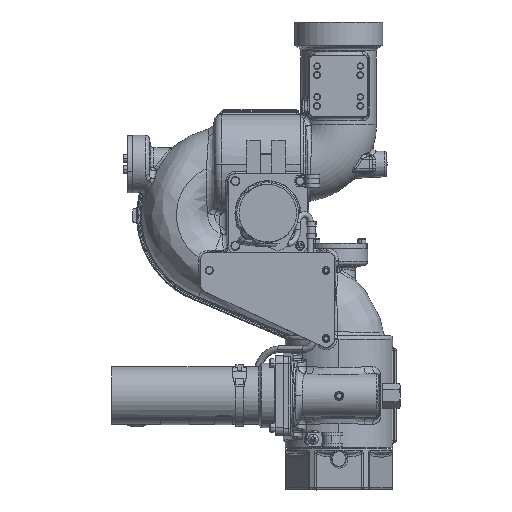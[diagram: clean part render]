
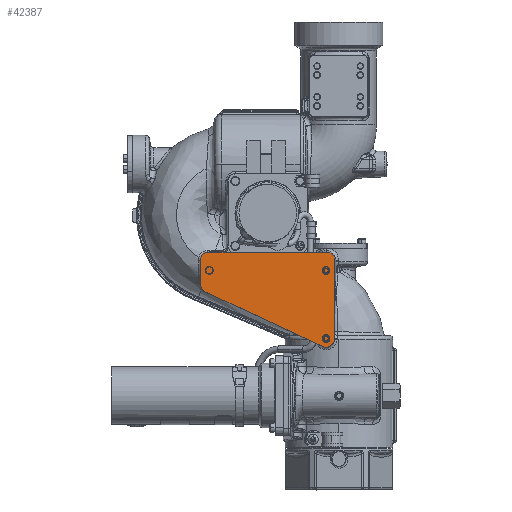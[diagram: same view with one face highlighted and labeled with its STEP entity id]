
A CAD part, top view. The second image highlights one B-rep face of the part: STEP entity #42387.
In plain terms, the highlighted planar face has unit normal (0, 0, 1).
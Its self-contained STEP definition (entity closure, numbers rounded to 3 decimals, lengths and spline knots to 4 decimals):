
#1124 = ORIENTED_EDGE ( 'NONE', *, *, #85695, .T. ) ;
#1375 = VERTEX_POINT ( 'NONE', #98646 ) ;
#4652 = CARTESIAN_POINT ( 'NONE',  ( -0.1485, 3.308, 3.407 ) ) ;
#4891 = AXIS2_PLACEMENT_3D ( 'NONE', #144841, #87002, #89511 ) ;
#11999 = EDGE_CURVE ( 'Defeatured_8_6+Defeatured_8_3+Defeatured_8_7+Defeatured_8_8', #1375, #87515, #99019, .T. ) ;
#12520 = AXIS2_PLACEMENT_3D ( 'NONE', #115665, #48088, #127027 ) ;
#12606 = VECTOR ( 'NONE', #93322, 39.3701 ) ;
#18465 = DIRECTION ( 'NONE',  ( 1., 0., 0. ) ) ;
#20664 = VECTOR ( 'NONE', #76787, 39.3701 ) ;
#23745 = AXIS2_PLACEMENT_3D ( 'NONE', #29777, #97387, #18465 ) ;
#24549 = ORIENTED_EDGE ( 'NONE', *, *, #11999, .F. ) ;
#25257 = DIRECTION ( 'NONE',  ( 0., 1., 0. ) ) ;
#29777 = CARTESIAN_POINT ( 'NONE',  ( -0.3985, 3.058, 3.407 ) ) ;
#30606 = CARTESIAN_POINT ( 'NONE',  ( -4.5545, 3.308, 3.407 ) ) ;
#31327 = CARTESIAN_POINT ( 'NONE',  ( -4.8045, 3.308, 3.407 ) ) ;
#33563 = LINE ( 'NONE', #4652, #37103 ) ;
#35793 = ORIENTED_EDGE ( 'NONE', *, *, #36235, .T. ) ;
#36235 = EDGE_CURVE ( 'Defeatured_8_3+Defeatured_8_1+Defeatured_8_7+Defeatured_8_5', #140861, #60408, #33563, .T. ) ;
#37103 = VECTOR ( 'NONE', #25257, 39.3701 ) ;
#42289 = LINE ( 'NONE', #144347, #98772 ) ;
#42387 = ADVANCED_FACE ( 'Defeatured_8_3', ( #83553 ), #97475, .T. ) ;
#42772 = ORIENTED_EDGE ( 'NONE', *, *, #119004, .T. ) ;
#43946 = CARTESIAN_POINT ( 'NONE',  ( -0.1485, 0.306, 3.407 ) ) ;
#46957 = AXIS2_PLACEMENT_3D ( 'NONE', #140026, #57533, #143243 ) ;
#48088 = DIRECTION ( 'NONE',  ( 0., 0., -1. ) ) ;
#48875 = EDGE_CURVE ( 'Defeatured_8_3+Defeatured_8_8+Defeatured_8_0+Defeatured_8_6', #98380, #87515, #77392, .T. ) ;
#51798 = EDGE_CURVE ( 'Defeatured_8_3+Defeatured_8_5+Defeatured_8_1+Defeatured_8_2', #60408, #94899, #57400, .T. ) ;
#54174 = CARTESIAN_POINT ( 'NONE',  ( -4.5545, 3.058, 3.407 ) ) ;
#54215 = LINE ( 'NONE', #31327, #20664 ) ;
#54827 = CARTESIAN_POINT ( 'NONE',  ( -4.6602, 1.9389, 3.407 ) ) ;
#57400 = CIRCLE ( 'NONE', #23745, 0.25 ) ;
#57533 = DIRECTION ( 'NONE',  ( 0., 0., 1. ) ) ;
#59304 = CARTESIAN_POINT ( 'NONE',  ( -0.1485, 3.058, 3.407 ) ) ;
#60408 = VERTEX_POINT ( 'NONE', #59304 ) ;
#65535 = DIRECTION ( 'NONE',  ( 1., 0., 0. ) ) ;
#76787 = DIRECTION ( 'NONE',  ( 0., -1., 0. ) ) ;
#77392 = CIRCLE ( 'NONE', #46957, 0.25 ) ;
#77455 = ORIENTED_EDGE ( 'NONE', *, *, #128102, .T. ) ;
#81689 = CIRCLE ( 'NONE', #102324, 0.25 ) ;
#83553 = FACE_OUTER_BOUND ( 'NONE', #113064, .T. ) ;
#85695 = EDGE_CURVE ( 'Defeatured_8_3+Defeatured_8_0+Defeatured_8_4+Defeatured_8_8', #108030, #98380, #54215, .T. ) ;
#87002 = DIRECTION ( 'NONE',  ( 0., 0., 1. ) ) ;
#87515 = VERTEX_POINT ( 'NONE', #54827 ) ;
#88128 = DIRECTION ( 'NONE',  ( -1., 0., 0. ) ) ;
#89511 = DIRECTION ( 'NONE',  ( 1., 0., 0. ) ) ;
#93322 = DIRECTION ( 'NONE',  ( -0.906, 0.423, 0. ) ) ;
#94899 = VERTEX_POINT ( 'NONE', #109176 ) ;
#97387 = DIRECTION ( 'NONE',  ( 0., 0., 1. ) ) ;
#97475 = PLANE ( 'NONE',  #4891 ) ;
#98380 = VERTEX_POINT ( 'NONE', #130697 ) ;
#98646 = CARTESIAN_POINT ( 'NONE',  ( -0.5753, 0.0341, 3.407 ) ) ;
#98772 = VECTOR ( 'NONE', #88128, 39.3701 ) ;
#99019 = LINE ( 'NONE', #138640, #12606 ) ;
#102324 = AXIS2_PLACEMENT_3D ( 'NONE', #54174, #133095, #65535 ) ;
#103556 = CIRCLE ( 'NONE', #12520, 0.3 ) ;
#105315 = CARTESIAN_POINT ( 'NONE',  ( -4.8045, 3.058, 3.407 ) ) ;
#108030 = VERTEX_POINT ( 'NONE', #105315 ) ;
#108355 = ORIENTED_EDGE ( 'NONE', *, *, #116442, .F. ) ;
#109176 = CARTESIAN_POINT ( 'NONE',  ( -0.3985, 3.308, 3.407 ) ) ;
#113064 = EDGE_LOOP ( 'NONE', ( #1124, #122869, #24549, #108355, #35793, #145506, #42772, #77455 ) ) ;
#115665 = CARTESIAN_POINT ( 'NONE',  ( -0.4485, 0.306, 3.407 ) ) ;
#116442 = EDGE_CURVE ( 'Defeatured_8_7+Defeatured_8_3+Defeatured_8_1+Defeatured_8_6', #140861, #1375, #103556, .T. ) ;
#119004 = EDGE_CURVE ( 'Defeatured_8_3+Defeatured_8_2+Defeatured_8_5+Defeatured_8_4', #94899, #140723, #42289, .T. ) ;
#122869 = ORIENTED_EDGE ( 'NONE', *, *, #48875, .T. ) ;
#127027 = DIRECTION ( 'NONE',  ( 1., 0., 0. ) ) ;
#128102 = EDGE_CURVE ( 'Defeatured_8_3+Defeatured_8_4+Defeatured_8_2+Defeatured_8_0', #140723, #108030, #81689, .T. ) ;
#130697 = CARTESIAN_POINT ( 'NONE',  ( -4.8045, 2.1655, 3.407 ) ) ;
#133095 = DIRECTION ( 'NONE',  ( 0., 0., 1. ) ) ;
#138640 = CARTESIAN_POINT ( 'NONE',  ( -4.8045, 2.0062, 3.407 ) ) ;
#140026 = CARTESIAN_POINT ( 'NONE',  ( -4.5545, 2.1655, 3.407 ) ) ;
#140723 = VERTEX_POINT ( 'NONE', #30606 ) ;
#140861 = VERTEX_POINT ( 'NONE', #43946 ) ;
#143243 = DIRECTION ( 'NONE',  ( 1., 0., 0. ) ) ;
#144347 = CARTESIAN_POINT ( 'NONE',  ( -4.8045, 3.308, 3.407 ) ) ;
#144841 = CARTESIAN_POINT ( 'NONE',  ( -2.4765, 1.633, 3.407 ) ) ;
#145506 = ORIENTED_EDGE ( 'NONE', *, *, #51798, .T. ) ;
